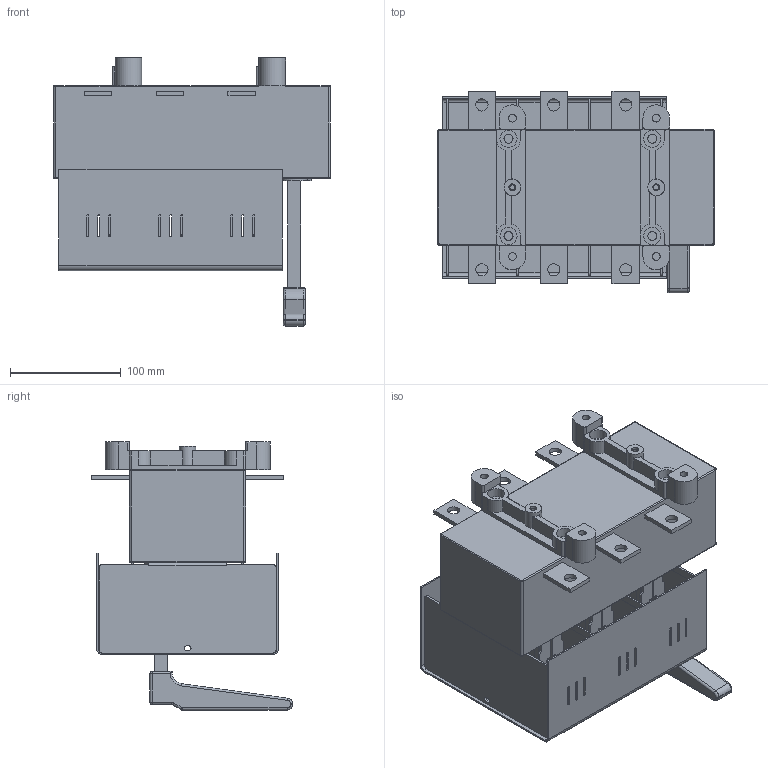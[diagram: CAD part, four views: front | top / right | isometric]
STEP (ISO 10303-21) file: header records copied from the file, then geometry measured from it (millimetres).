
FILE_DESCRIPTION(/* description */ (''),/* implementation_level */ '2;1');
FILE_NAME(/* name */ 'RAB 1 P3-R.stp',/* time_stamp */ '2021-08-19T12:07:26+02:00',/* author */ (''),/* organization */ (''),/* preprocessor_version */ 'ST-DEVELOPER v18.1',/* originating_system */ 'SIEMENS PLM Software NX 1965',/* authorisation */ '');
FILE_SCHEMA (('FEATURE_BASED_PROCESS_PLANNING','TECHNICAL_DATA_PACKAGING'));
Length unit declared in the file: millimetre
Products named in the file (1): RAB 1 P3-R_stp
Bounding box: 250 x 182 x 242.3 mm (x, y, z)
Volume: 2543518.9 mm3; surface area: 436403.9 mm2
Topology: 1 solids, 1 shells, 1012 faces, 2781 edges, 1804 vertices
Faces by surface type: plane 643, cylinder 347, torus 13, sphere 6, bspline 3
Full cylindrical faces by diameter (mm): 4.8 x2, 6.2 x2, 7 x4, 8.2 x4, 11 x6, 14 x4, 15 x2, 15.5 x4
Entity records: 32102 total; most frequent: CARTESIAN_POINT 5645, ORIENTED_EDGE 5478, DIRECTION 5477, EDGE_CURVE 2739, LINE 2005, VECTOR 2005, VERTEX_POINT 1796, AXIS2_PLACEMENT_3D 1736
